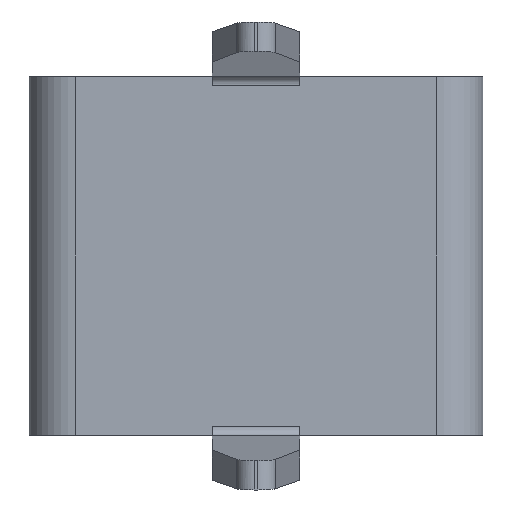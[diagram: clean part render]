
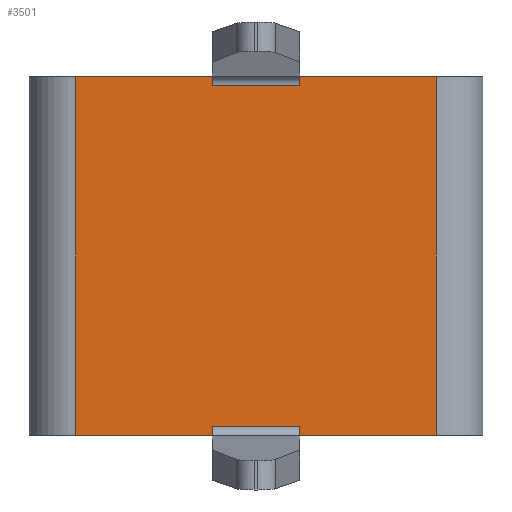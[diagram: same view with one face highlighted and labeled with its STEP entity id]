
A CAD part, front view. The second image highlights one B-rep face of the part: STEP entity #3501.
In plain terms, the highlighted planar face has unit normal (0, -1, 0).
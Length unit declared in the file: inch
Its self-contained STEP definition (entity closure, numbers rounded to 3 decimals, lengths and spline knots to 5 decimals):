
#245=PLANE('',#3717);
#345=FACE_OUTER_BOUND('',#539,.T.);
#539=EDGE_LOOP('',(#2396,#2397,#2398,#2399,#2400,#2401,#2402,#2403,#2404,
#2405,#2406,#2407));
#745=LINE('',#4624,#1095);
#746=LINE('',#4627,#1096);
#747=LINE('',#4629,#1097);
#748=LINE('',#4631,#1098);
#749=LINE('',#4633,#1099);
#750=LINE('',#4635,#1100);
#751=LINE('',#4637,#1101);
#752=LINE('',#4639,#1102);
#753=LINE('',#4641,#1103);
#754=LINE('',#4643,#1104);
#755=LINE('',#4645,#1105);
#756=LINE('',#4646,#1106);
#1095=VECTOR('',#3906,0.3937);
#1096=VECTOR('',#3909,0.3937);
#1097=VECTOR('',#3910,0.3937);
#1098=VECTOR('',#3911,0.3937);
#1099=VECTOR('',#3912,0.3937);
#1100=VECTOR('',#3913,0.3937);
#1101=VECTOR('',#3914,0.3937);
#1102=VECTOR('',#3915,0.3937);
#1103=VECTOR('',#3916,0.3937);
#1104=VECTOR('',#3917,0.3937);
#1105=VECTOR('',#3918,0.3937);
#1106=VECTOR('',#3919,0.3937);
#1492=VERTEX_POINT('',#4617);
#1495=VERTEX_POINT('',#4622);
#1496=VERTEX_POINT('',#4626);
#1497=VERTEX_POINT('',#4628);
#1498=VERTEX_POINT('',#4630);
#1499=VERTEX_POINT('',#4632);
#1500=VERTEX_POINT('',#4634);
#1501=VERTEX_POINT('',#4636);
#1502=VERTEX_POINT('',#4638);
#1503=VERTEX_POINT('',#4640);
#1504=VERTEX_POINT('',#4642);
#1505=VERTEX_POINT('',#4644);
#1855=EDGE_CURVE('',#1495,#1492,#745,.T.);
#1856=EDGE_CURVE('',#1496,#1492,#746,.T.);
#1857=EDGE_CURVE('',#1495,#1497,#747,.T.);
#1858=EDGE_CURVE('',#1498,#1497,#748,.T.);
#1859=EDGE_CURVE('',#1499,#1498,#749,.T.);
#1860=EDGE_CURVE('',#1500,#1499,#750,.T.);
#1861=EDGE_CURVE('',#1500,#1501,#751,.T.);
#1862=EDGE_CURVE('',#1502,#1501,#752,.T.);
#1863=EDGE_CURVE('',#1502,#1503,#753,.T.);
#1864=EDGE_CURVE('',#1504,#1503,#754,.T.);
#1865=EDGE_CURVE('',#1505,#1504,#755,.T.);
#1866=EDGE_CURVE('',#1496,#1505,#756,.T.);
#2396=ORIENTED_EDGE('',*,*,#1856,.T.);
#2397=ORIENTED_EDGE('',*,*,#1855,.F.);
#2398=ORIENTED_EDGE('',*,*,#1857,.T.);
#2399=ORIENTED_EDGE('',*,*,#1858,.F.);
#2400=ORIENTED_EDGE('',*,*,#1859,.F.);
#2401=ORIENTED_EDGE('',*,*,#1860,.F.);
#2402=ORIENTED_EDGE('',*,*,#1861,.T.);
#2403=ORIENTED_EDGE('',*,*,#1862,.F.);
#2404=ORIENTED_EDGE('',*,*,#1863,.T.);
#2405=ORIENTED_EDGE('',*,*,#1864,.F.);
#2406=ORIENTED_EDGE('',*,*,#1865,.F.);
#2407=ORIENTED_EDGE('',*,*,#1866,.F.);
#3501=ADVANCED_FACE('',(#345),#245,.T.);
#3717=AXIS2_PLACEMENT_3D('',#4625,#3907,#3908);
#3906=DIRECTION('',(-1.,0.,0.));
#3907=DIRECTION('center_axis',(0.,-1.,0.));
#3908=DIRECTION('ref_axis',(1.,0.,0.));
#3909=DIRECTION('',(0.,0.,1.));
#3910=DIRECTION('',(0.,0.,-1.));
#3911=DIRECTION('',(-1.,0.,0.));
#3912=DIRECTION('',(0.,0.,-1.));
#3913=DIRECTION('',(1.,0.,0.));
#3914=DIRECTION('',(0.,0.,-1.));
#3915=DIRECTION('',(1.,0.,0.));
#3916=DIRECTION('',(0.,0.,1.));
#3917=DIRECTION('',(1.,0.,0.));
#3918=DIRECTION('',(0.,0.,1.));
#3919=DIRECTION('',(-1.,0.,0.));
#4617=CARTESIAN_POINT('',(-0.02362,-0.00655,-0.09192));
#4622=CARTESIAN_POINT('',(0.02362,-0.00655,-0.09192));
#4624=CARTESIAN_POINT('',(-0.06398,-0.00655,-0.09192));
#4625=CARTESIAN_POINT('Origin',(-0.12795,-0.00655,
0.));
#4626=CARTESIAN_POINT('',(-0.02362,-0.00655,-0.09646));
#4627=CARTESIAN_POINT('',(-0.02362,-0.00655,-0.05545));
#4628=CARTESIAN_POINT('',(0.02362,-0.00655,-0.09646));
#4629=CARTESIAN_POINT('',(0.02362,-0.00655,-0.05545));
#4630=CARTESIAN_POINT('',(0.09715,-0.00655,-0.09646));
#4631=CARTESIAN_POINT('',(-0.12795,-0.00655,-0.09646));
#4632=CARTESIAN_POINT('',(0.09715,-0.00655,0.09646));
#4633=CARTESIAN_POINT('',(0.09715,-0.00655,0.));
#4634=CARTESIAN_POINT('',(0.02362,-0.00655,0.09646));
#4635=CARTESIAN_POINT('',(-0.12795,-0.00655,0.09646));
#4636=CARTESIAN_POINT('',(0.02362,-0.00655,0.09192));
#4637=CARTESIAN_POINT('',(0.02362,-0.00655,0.05545));
#4638=CARTESIAN_POINT('',(-0.02362,-0.00655,0.09192));
#4639=CARTESIAN_POINT('',(-0.06398,-0.00655,0.09192));
#4640=CARTESIAN_POINT('',(-0.02362,-0.00655,0.09646));
#4641=CARTESIAN_POINT('',(-0.02362,-0.00655,0.05545));
#4642=CARTESIAN_POINT('',(-0.09715,-0.00655,0.09646));
#4643=CARTESIAN_POINT('',(-0.12795,-0.00655,0.09646));
#4644=CARTESIAN_POINT('',(-0.09715,-0.00655,-0.09646));
#4645=CARTESIAN_POINT('',(-0.09715,-0.00655,0.));
#4646=CARTESIAN_POINT('',(-0.12795,-0.00655,-0.09646));
